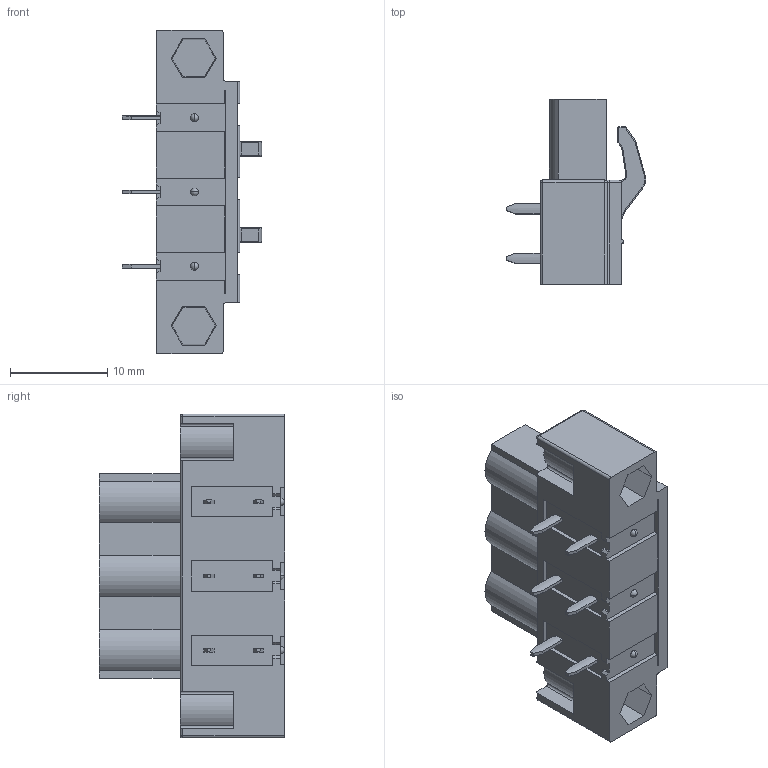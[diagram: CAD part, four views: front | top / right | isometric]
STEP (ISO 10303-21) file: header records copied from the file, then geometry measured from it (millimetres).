
FILE_DESCRIPTION((''),'2;1');
FILE_NAME('333','2019-04-19T',('zhenbing.lai'),(''),'CREO PARAMETRIC BY PTC INC, 2016260','CREO PARAMETRIC BY PTC INC, 2016260','');
FILE_SCHEMA(('CONFIG_CONTROL_DESIGN'));
Length unit declared in the file: millimetre
Products named in the file (1): 333
Bounding box: 14.31 x 19 x 33.24 mm (x, y, z)
Volume: 3420.5 mm3; surface area: 2375 mm2
Topology: 1 solids, 1 shells, 417 faces, 1095 edges, 697 vertices
Faces by surface type: plane 224, cylinder 124, bspline 28, torus 21, sphere 10, cone 10
Entity records: 13360 total; most frequent: CARTESIAN_POINT 3083, ORIENTED_EDGE 2170, DIRECTION 2100, EDGE_CURVE 1085, VECTOR 700, LINE 700, AXIS2_PLACEMENT_3D 700, VERTEX_POINT 697
